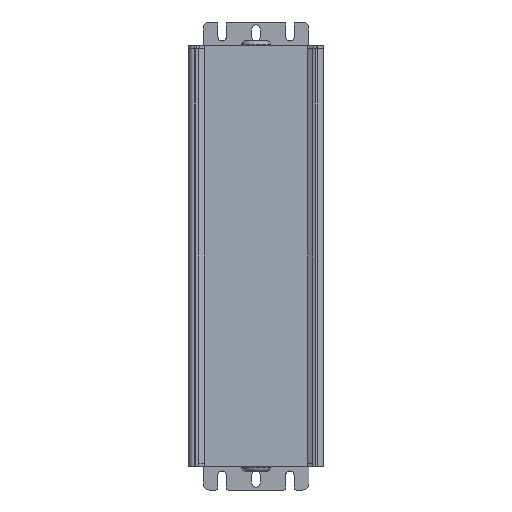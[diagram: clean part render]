
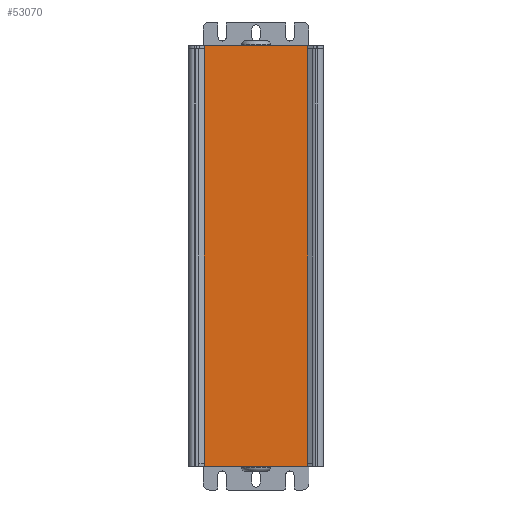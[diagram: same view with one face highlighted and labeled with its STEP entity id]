
A CAD part, left-side view. The second image highlights one B-rep face of the part: STEP entity #53070.
In plain terms, the highlighted planar face has unit normal (-1, 0, 0) as drawn and (0, 1, 0) by its records, which use the part's own axes.
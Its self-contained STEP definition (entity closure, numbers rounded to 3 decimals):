
#4680=CARTESIAN_POINT('',(1951.285,-2415.053,
6.6));
#4690=VERTEX_POINT('',#4680);
#4720=CARTESIAN_POINT('',(1951.285,-2415.053,6.44))
;
#4730=DIRECTION('',(0.,0.,1.));
#4740=VECTOR('',#4730,1.);
#4750=LINE('',#4720,#4740);
#4760=CARTESIAN_POINT('',(1951.285,-2415.053,8.2));
#4770=VERTEX_POINT('',#4760);
#4780=EDGE_CURVE('',#4690,#4770,#4750,.T.);
#5500=CARTESIAN_POINT('',(2003.285,-2415.053,8.2));
#5510=VERTEX_POINT('',#5500);
#5540=CARTESIAN_POINT('',(2003.285,-2415.053,6.44))
;
#5550=DIRECTION('',(0.,0.,1.));
#5560=VECTOR('',#5550,1.);
#5570=LINE('',#5540,#5560);
#5580=CARTESIAN_POINT('',(2003.285,-2415.053,
6.6));
#5590=VERTEX_POINT('',#5580);
#5600=EDGE_CURVE('',#5590,#5510,#5570,.T.);
#14810=CARTESIAN_POINT('',(2003.235,-2415.053,
217.));
#14820=VERTEX_POINT('',#14810);
#14850=CARTESIAN_POINT('',(3954.519,-2415.053,
217.));
#14860=DIRECTION('',(1.,0.,0.));
#14870=VECTOR('',#14860,1.);
#14880=LINE('',#14850,#14870);
#14890=CARTESIAN_POINT('',(2003.285,-2415.053,
217.));
#14900=VERTEX_POINT('',#14890);
#14910=EDGE_CURVE('',#14820,#14900,#14880,.T.);
#26600=CARTESIAN_POINT('',(1951.235,-2415.053,217.));
#26610=VERTEX_POINT('',#26600);
#26640=CARTESIAN_POINT('',(1951.235,-2415.053,
218.76));
#26650=DIRECTION('',(0.,0.,-1.));
#26660=VECTOR('',#26650,1.);
#26670=LINE('',#26640,#26660);
#26680=CARTESIAN_POINT('',(1951.235,-2415.053,
218.6));
#26690=VERTEX_POINT('',#26680);
#26700=EDGE_CURVE('',#26690,#26610,#26670,.T.);
#27100=CARTESIAN_POINT('',(1951.285,-2415.053,15.));
#27110=DIRECTION('',(0.,0.,1.));
#27120=VECTOR('',#27110,1.);
#27130=LINE('',#27100,#27120);
#27140=CARTESIAN_POINT('',(1951.285,-2415.053,
217.));
#27150=VERTEX_POINT('',#27140);
#27160=EDGE_CURVE('',#4770,#27150,#27130,.T.);
#27730=CARTESIAN_POINT('',(2003.285,-2415.053,15.));
#27740=DIRECTION('',(0.,0.,1.));
#27750=VECTOR('',#27740,1.);
#27760=LINE('',#27730,#27750);
#27770=EDGE_CURVE('',#5510,#14900,#27760,.T.);
#28170=CARTESIAN_POINT('',(2003.235,-2415.053,
218.6));
#28180=VERTEX_POINT('',#28170);
#28210=CARTESIAN_POINT('',(2003.235,-2415.053,
218.76));
#28220=DIRECTION('',(0.,0.,-1.));
#28230=VECTOR('',#28220,1.);
#28240=LINE('',#28210,#28230);
#28250=EDGE_CURVE('',#28180,#14820,#28240,.T.);
#39710=CARTESIAN_POINT('',(3954.519,-2415.053,217.));
#39720=DIRECTION('',(-1.,0.,0.));
#39730=VECTOR('',#39720,1.);
#39740=LINE('',#39710,#39730);
#39750=EDGE_CURVE('',#27150,#26610,#39740,.T.);
#43770=CARTESIAN_POINT('',(0.,-2415.053,6.6));
#43780=DIRECTION('',(1.,0.,0.));
#43790=VECTOR('',#43780,1.);
#43800=LINE('',#43770,#43790);
#43810=EDGE_CURVE('',#4690,#5590,#43800,.T.);
#52850=CARTESIAN_POINT('',(1951.285,-2415.053,15.));
#52860=DIRECTION('',(0.,1.,0.));
#52870=DIRECTION('',(1.,0.,0.));
#52880=AXIS2_PLACEMENT_3D('',#52850,#52860,#52870);
#52890=PLANE('',#52880);
#52900=ORIENTED_EDGE('',*,*,#4780,.T.);
#52910=ORIENTED_EDGE('',*,*,#43810,.F.);
#52920=ORIENTED_EDGE('',*,*,#5600,.F.);
#52930=ORIENTED_EDGE('',*,*,#27770,.F.);
#52940=ORIENTED_EDGE('',*,*,#14910,.T.);
#52950=ORIENTED_EDGE('',*,*,#28250,.T.);
#52960=CARTESIAN_POINT('',(3954.519,-2415.053,
218.6));
#52970=DIRECTION('',(-1.,0.,0.));
#52980=VECTOR('',#52970,1.);
#52990=LINE('',#52960,#52980);
#53000=EDGE_CURVE('',#28180,#26690,#52990,.T.);
#53010=ORIENTED_EDGE('',*,*,#53000,.F.);
#53020=ORIENTED_EDGE('',*,*,#26700,.F.);
#53030=ORIENTED_EDGE('',*,*,#39750,.T.);
#53040=ORIENTED_EDGE('',*,*,#27160,.T.);
#53050=EDGE_LOOP('',(#53040,#53030,#53020,#53010,#52950,#52940,#52930,
#52920,#52910,#52900));
#53060=FACE_OUTER_BOUND('',#53050,.T.);
#53070=ADVANCED_FACE('',(#53060),#52890,.T.);
